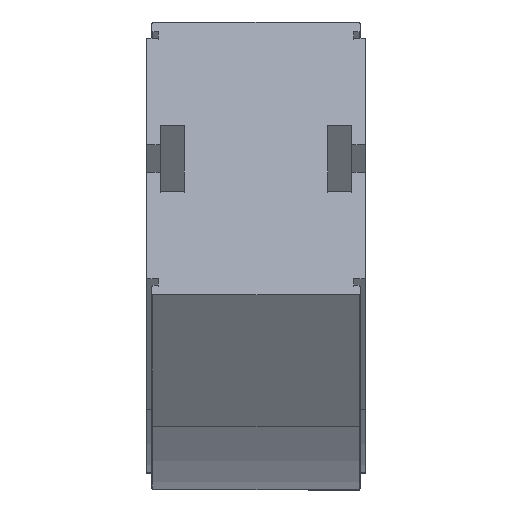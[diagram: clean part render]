
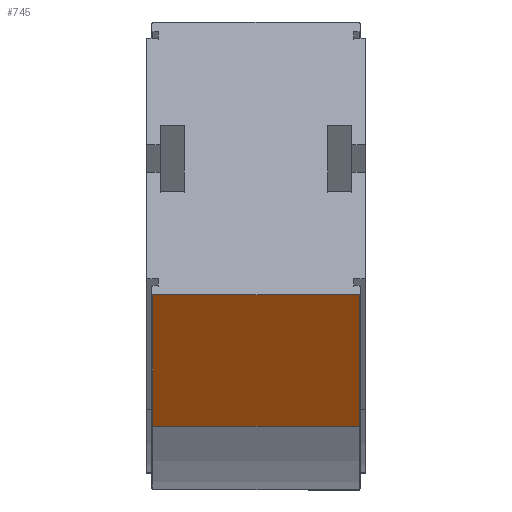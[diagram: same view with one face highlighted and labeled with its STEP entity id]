
A CAD part, top view. The second image highlights one B-rep face of the part: STEP entity #745.
In plain terms, the highlighted planar face has unit normal (0, -0.966, 0.259).
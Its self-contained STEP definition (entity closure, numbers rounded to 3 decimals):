
#67 = VERTEX_POINT ( 'NONE', #896 ) ;
#201 = LINE ( 'NONE', #399, #2029 ) ;
#331 = DIRECTION ( 'NONE',  ( 0., 0.966, -0.259 ) ) ;
#392 = VECTOR ( 'NONE', #3080, 1000. ) ;
#399 = CARTESIAN_POINT ( 'NONE',  ( -30.65, -23.532, 290.28 ) ) ;
#470 = EDGE_CURVE ( 'NONE', #529, #1431, #616, .T. ) ;
#520 = EDGE_CURVE ( 'NONE', #529, #1028, #201, .T. ) ;
#529 = VERTEX_POINT ( 'NONE', #1844 ) ;
#616 = LINE ( 'NONE', #1855, #782 ) ;
#644 = EDGE_LOOP ( 'NONE', ( #1022, #1947, #1139, #847 ) ) ;
#745 = ADVANCED_FACE ( 'NONE', ( #1151 ), #1970, .F. ) ;
#782 = VECTOR ( 'NONE', #2309, 1000. ) ;
#847 = ORIENTED_EDGE ( 'NONE', *, *, #1555, .F. ) ;
#896 = CARTESIAN_POINT ( 'NONE',  ( -30.65, 15.291, 435.169 ) ) ;
#1022 = ORIENTED_EDGE ( 'NONE', *, *, #520, .F. ) ;
#1028 = VERTEX_POINT ( 'NONE', #1510 ) ;
#1043 = LINE ( 'NONE', #2834, #392 ) ;
#1139 = ORIENTED_EDGE ( 'NONE', *, *, #2648, .T. ) ;
#1151 = FACE_OUTER_BOUND ( 'NONE', #644, .T. ) ;
#1407 = VECTOR ( 'NONE', #2093, 1000. ) ;
#1425 = CARTESIAN_POINT ( 'NONE',  ( -30.65, 15.291, 435.169 ) ) ;
#1431 = VERTEX_POINT ( 'NONE', #1583 ) ;
#1510 = CARTESIAN_POINT ( 'NONE',  ( -30.65, -23.532, 290.28 ) ) ;
#1555 = EDGE_CURVE ( 'NONE', #1028, #67, #1043, .T. ) ;
#1583 = CARTESIAN_POINT ( 'NONE',  ( 30.65, 15.291, 435.169 ) ) ;
#1629 = AXIS2_PLACEMENT_3D ( 'NONE', #2987, #331, #2234 ) ;
#1682 = LINE ( 'NONE', #1425, #1407 ) ;
#1844 = CARTESIAN_POINT ( 'NONE',  ( 30.65, -23.532, 290.28 ) ) ;
#1855 = CARTESIAN_POINT ( 'NONE',  ( 30.65, -23.532, 290.28 ) ) ;
#1947 = ORIENTED_EDGE ( 'NONE', *, *, #470, .T. ) ;
#1970 = PLANE ( 'NONE',  #1629 ) ;
#2029 = VECTOR ( 'NONE', #2067, 1000. ) ;
#2067 = DIRECTION ( 'NONE',  ( -1., 0., 0. ) ) ;
#2093 = DIRECTION ( 'NONE',  ( -1., 0., 0. ) ) ;
#2234 = DIRECTION ( 'NONE',  ( 0., 0.259, 0.966 ) ) ;
#2309 = DIRECTION ( 'NONE',  ( 0., 0.259, 0.966 ) ) ;
#2648 = EDGE_CURVE ( 'NONE', #1431, #67, #1682, .T. ) ;
#2834 = CARTESIAN_POINT ( 'NONE',  ( -30.65, -23.532, 290.28 ) ) ;
#2987 = CARTESIAN_POINT ( 'NONE',  ( -30.65, -23.532, 290.28 ) ) ;
#3080 = DIRECTION ( 'NONE',  ( 0., 0.259, 0.966 ) ) ;
